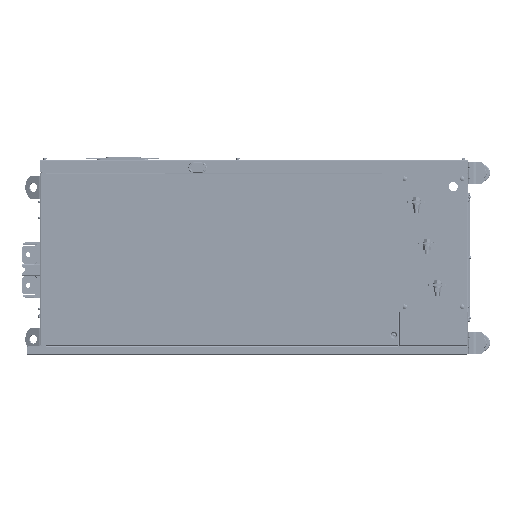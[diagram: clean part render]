
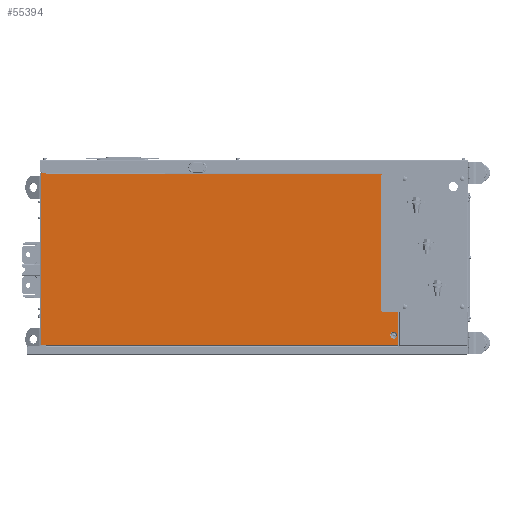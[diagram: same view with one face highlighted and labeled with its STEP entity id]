
A CAD part, left-side view. The second image highlights one B-rep face of the part: STEP entity #55394.
In plain terms, the highlighted planar face has unit normal (-1, 0, 0) as drawn and (0, 0, 1) by its records, which use the part's own axes.
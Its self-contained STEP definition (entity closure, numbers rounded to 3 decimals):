
#53246=DIRECTION('',(0.,-1.,0.));
#53247=VECTOR('',#53246,976.236);
#53248=CARTESIAN_POINT('',(-238.,480.55,0.));
#53249=LINE('',#53248,#53247);
#53489=DIRECTION('',(0.,-1.,0.));
#53490=VECTOR('',#53489,15.5);
#53491=CARTESIAN_POINT('',(238.,495.75,0.));
#53492=LINE('',#53491,#53490);
#53496=DIRECTION('',(-1.,0.,0.));
#53497=VECTOR('',#53496,2.);
#53498=CARTESIAN_POINT('',(238.,480.25,0.));
#53499=LINE('',#53498,#53497);
#53503=DIRECTION('',(0.,1.,0.));
#53504=VECTOR('',#53503,15.2);
#53505=CARTESIAN_POINT('',(-238.,480.55,0.));
#53506=LINE('',#53505,#53504);
#53510=CARTESIAN_POINT('',(190.,-483.15,0.));
#53511=DIRECTION('',(0.,0.,1.));
#53512=DIRECTION('',(-1.,0.,0.));
#53513=AXIS2_PLACEMENT_3D('',#53510,#53511,#53512);
#53518=CARTESIAN_POINT('',(190.,-483.15,0.));
#53519=DIRECTION('',(0.,0.,1.));
#53520=DIRECTION('',(1.,0.,0.));
#53521=AXIS2_PLACEMENT_3D('',#53518,#53519,#53520);
#53526=CARTESIAN_POINT('',(-210.,-483.15,0.));
#53527=DIRECTION('',(0.,0.,1.));
#53528=DIRECTION('',(-1.,0.,0.));
#53529=AXIS2_PLACEMENT_3D('',#53526,#53527,#53528);
#53534=CARTESIAN_POINT('',(-210.,-483.15,0.));
#53535=DIRECTION('',(0.,0.,1.));
#53536=DIRECTION('',(1.,0.,0.));
#53537=AXIS2_PLACEMENT_3D('',#53534,#53535,#53536);
#53556=DIRECTION('',(0.,1.,0.));
#53557=VECTOR('',#53556,975.988);
#53558=CARTESIAN_POINT('',(236.,-495.738,0.));
#53559=LINE('',#53558,#53557);
#53758=DIRECTION('',(1.,0.,0.));
#53759=VECTOR('',#53758,474.);
#53760=CARTESIAN_POINT('',(-238.,-495.686,0.001));
#53761=LINE('',#53760,#53759);
#54082=DIRECTION('',(-1.,0.,0.));
#54083=VECTOR('',#54082,476.);
#54084=CARTESIAN_POINT('',(238.,495.75,0.));
#54085=LINE('',#54084,#54083);
#54769=CARTESIAN_POINT('',(236.,480.25,0.));
#54770=VERTEX_POINT('',#54769);
#54829=CARTESIAN_POINT('',(199.797,-483.15,0.));
#54830=CARTESIAN_POINT('',(180.203,-483.15,0.));
#54831=VERTEX_POINT('',#54829);
#54832=VERTEX_POINT('',#54830);
#54833=CARTESIAN_POINT('',(238.,495.75,0.));
#54834=CARTESIAN_POINT('',(238.,480.25,0.));
#54835=VERTEX_POINT('',#54833);
#54836=VERTEX_POINT('',#54834);
#54837=CARTESIAN_POINT('',(236.,-495.738,0.));
#54838=VERTEX_POINT('',#54837);
#54839=CARTESIAN_POINT('',(-238.,-495.686,0.001));
#54840=VERTEX_POINT('',#54839);
#54841=CARTESIAN_POINT('',(-238.,480.55,0.));
#54842=VERTEX_POINT('',#54841);
#54843=CARTESIAN_POINT('',(-238.,495.75,0.));
#54844=VERTEX_POINT('',#54843);
#54845=CARTESIAN_POINT('',(-219.797,-483.15,0.));
#54846=CARTESIAN_POINT('',(-200.203,-483.15,0.));
#54847=VERTEX_POINT('',#54845);
#54848=VERTEX_POINT('',#54846);
#55365=CARTESIAN_POINT('',(0.,0.,0.));
#55366=DIRECTION('',(0.,0.,1.));
#55367=DIRECTION('',(1.,0.,0.));
#55368=AXIS2_PLACEMENT_3D('',#55365,#55366,#55367);
#55369=PLANE('',#55368);
#55370=ORIENTED_EDGE('',*,*,#55345,.T.);
#55371=ORIENTED_EDGE('',*,*,#55357,.T.);
#55373=ORIENTED_EDGE('',*,*,#55372,.F.);
#55375=ORIENTED_EDGE('',*,*,#55374,.F.);
#55376=ORIENTED_EDGE('',*,*,#55170,.F.);
#55377=ORIENTED_EDGE('',*,*,#55201,.T.);
#55379=ORIENTED_EDGE('',*,*,#55378,.F.);
#55380=EDGE_LOOP('',(#55370,#55371,#55373,#55375,#55376,#55377,#55379));
#55381=FACE_OUTER_BOUND('',#55380,.F.);
#55383=ORIENTED_EDGE('',*,*,#55382,.T.);
#55385=ORIENTED_EDGE('',*,*,#55384,.T.);
#55386=EDGE_LOOP('',(#55383,#55385));
#55387=FACE_BOUND('',#55386,.F.);
#55389=ORIENTED_EDGE('',*,*,#55388,.T.);
#55391=ORIENTED_EDGE('',*,*,#55390,.T.);
#55392=EDGE_LOOP('',(#55389,#55391));
#55393=FACE_BOUND('',#55392,.F.);
#53514=CIRCLE('',#53513,9.797);
#53522=CIRCLE('',#53521,9.797);
#53530=CIRCLE('',#53529,9.797);
#53538=CIRCLE('',#53537,9.797);
#55170=EDGE_CURVE('',#54842,#54840,#53249,.T.);
#55201=EDGE_CURVE('',#54842,#54844,#53506,.T.);
#55345=EDGE_CURVE('',#54835,#54836,#53492,.T.);
#55357=EDGE_CURVE('',#54836,#54770,#53499,.T.);
#55372=EDGE_CURVE('',#54838,#54770,#53559,.T.);
#55374=EDGE_CURVE('',#54840,#54838,#53761,.T.);
#55378=EDGE_CURVE('',#54835,#54844,#54085,.T.);
#55382=EDGE_CURVE('',#54832,#54831,#53514,.T.);
#55384=EDGE_CURVE('',#54831,#54832,#53522,.T.);
#55388=EDGE_CURVE('',#54847,#54848,#53530,.T.);
#55390=EDGE_CURVE('',#54848,#54847,#53538,.T.);
#55394=ADVANCED_FACE('',(#55381,#55387,#55393),#55369,.T.);
